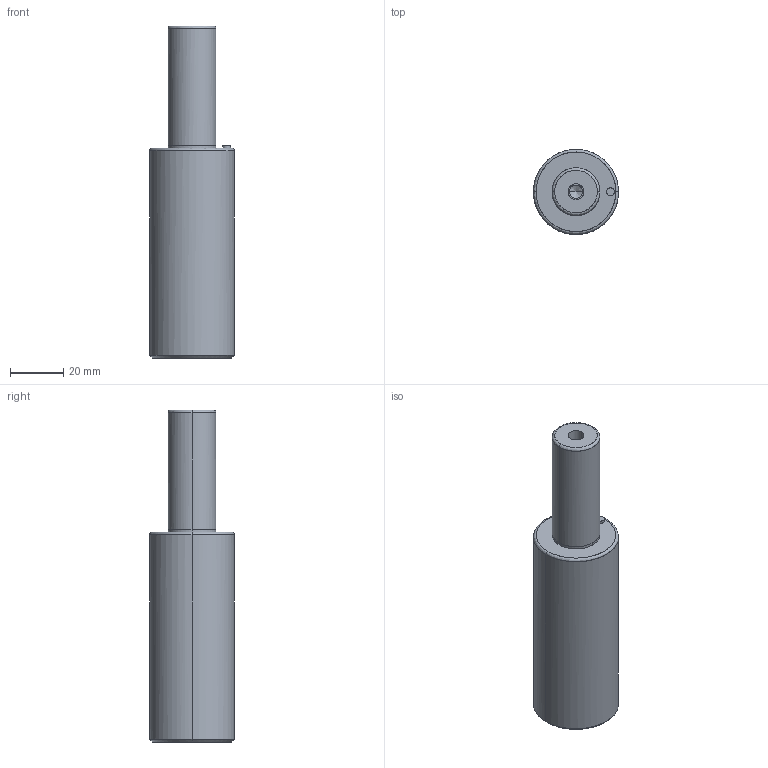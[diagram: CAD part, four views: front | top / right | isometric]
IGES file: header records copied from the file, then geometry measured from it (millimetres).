
Global section: file name: E:\UnigraphicsGraphicData\MISUMI_PRESS-PARTS\IGES\3d_gsc32-45_03825_r00.igs; native system: NX V5.0; preprocessor: UGS NX IGES V5.0; author: MISUMI; date: 20110105.160745; units: millimetre
Bounding box: 32 x 31.95 x 125 mm (x, y, z)
Surface area: 12434.5 mm2 (no closed solid volume)
Topology: 0 solids, 0 shells, 32 faces, 216 edges, 212 vertices
Faces by surface type: bspline 32
